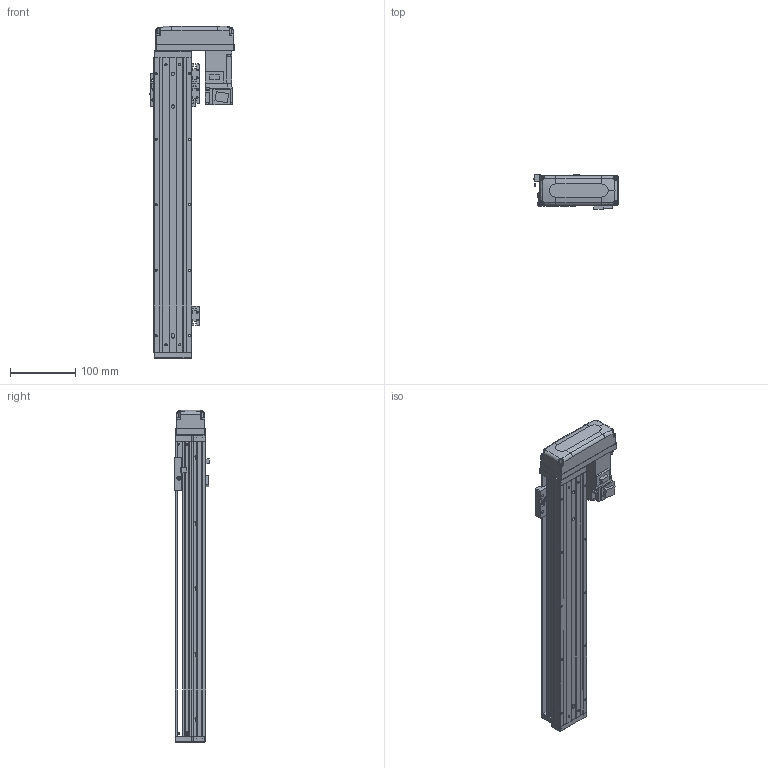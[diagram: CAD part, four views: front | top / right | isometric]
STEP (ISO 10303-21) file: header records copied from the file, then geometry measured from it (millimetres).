
FILE_DESCRIPTION (( 'STEP AP203' ), '1' );
FILE_NAME ('KTHA50-350-BL-M10-C4L.step', '2022-03-19T07:06:17', ( '微软用户' ), ( '微软中国' ), 'SwSTEP 2.0', 'SolidWorks 2020', '' );
FILE_SCHEMA (( 'CONFIG_CONTROL_DESIGN' ));
Length unit declared in the file: millimetre
Products named in the file (18): EE_SX911P_R; GBT 70.3-M3℅6; GBT77-2000 M3×3; HG-KR13（三菱）; KTHA50-001_450; GBT 70.1-M3℅6; CTHA50-015-2_CTHA60-015-2; KTHA50-002; CTHA60-017; CTHA60-033; KTHA50-004; GBT 70.1-M4×12; GBT 70.1-M3×15; KTHA50-005; CTHA60-016; KTHA50-350-BL-M10-C4L; GB¨uT 70.2-M3¡Á6_M3¡Á6; CTHA60-021
Assembly tree (53 placements, depth 2):
  KTHA50-350-BL-M10-C4L
    KTHA50-001_450
    KTHA50-002
    KTHA50-004
    KTHA50-005
    GB¨uT 70.2-M3¡Á6_M3¡Á6  x6
    EE_SX911P_R  x3
    GBT77-2000 M3×3  x6
    GBT 70.1-M3℅6  x6
    CTHA60-017  x3
    GBT 70.1-M4×12  x10
    CTHA60-016  x2
    CTHA60-021  x2
    GBT 70.3-M3℅6  x4
    HG-KR13（三菱）
    CTHA50-015-2_CTHA60-015-2
    CTHA60-033
    GBT 70.1-M3×15  x4
Bounding box: 128.4 x 53.3 x 507 mm (x, y, z)
Volume: 1107039.6 mm3; surface area: 271965 mm2
Topology: 56 solids, 56 shells, 2243 faces, 5295 edges, 3244 vertices
Faces by surface type: plane 1252, cylinder 544, cone 305, torus 100, bspline 26, sphere 16
Entity records: 37589 total; most frequent: CARTESIAN_POINT 7122, DIRECTION 5855, ORIENTED_EDGE 5602, EDGE_CURVE 2801, AXIS2_PLACEMENT_3D 1993, VECTOR 1869, LINE 1869, VERTEX_POINT 1758
